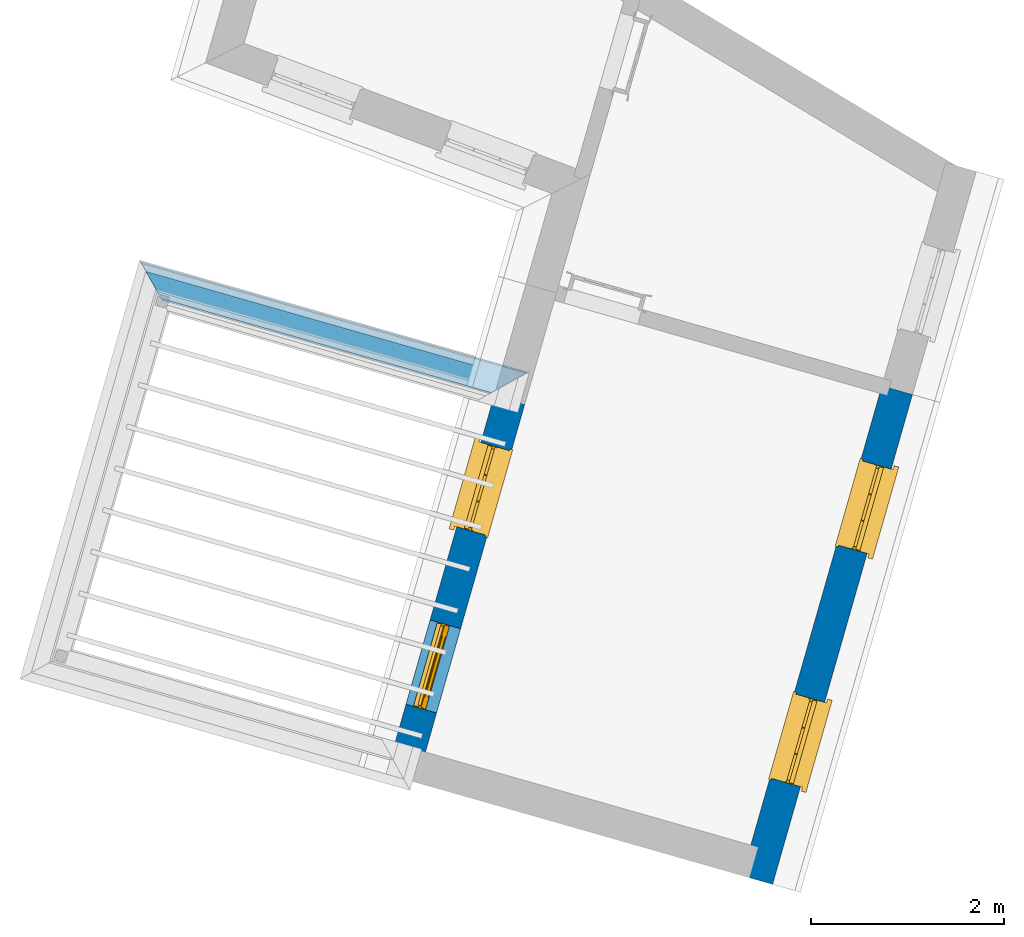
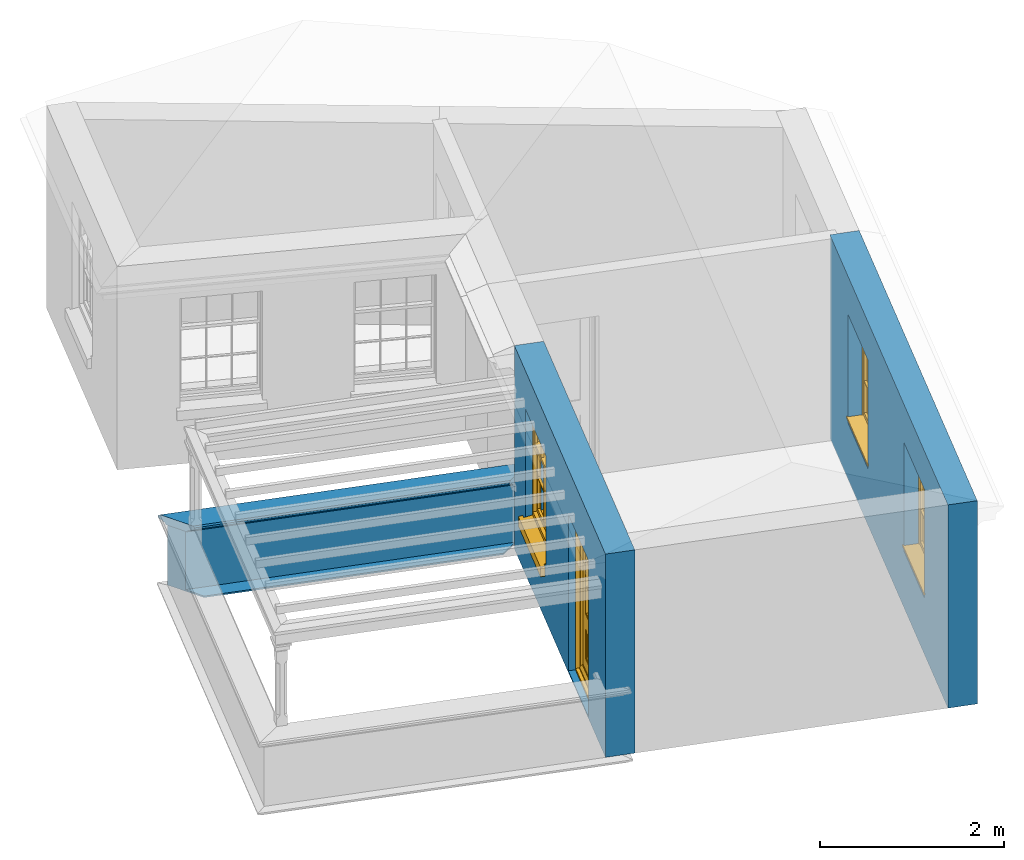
# One storey, part 2 of 5: 4 walls, 3 windows, 1 door, 4 openings.
"""IFC4 building model written with IfcOpenShell, lengths in metres."""

from ifc_helpers import new_model, si_unit, frame, origin, origin_with_axes, place, context, subcontext, project, spatial, polyline, outline, extrude, clip, halfspace, faceted_brep, source, transform, mapped, material, layer, layer_set, layer_usage, material_profile, profile_set, profile_usage, type_object, type_shapes, element, fill, save


model = new_model("IFC4")

# Units and contexts
model_context = context("Model", 3, world=origin_with_axes())
body_context = subcontext(model_context, "Body", "Model", "MODEL_VIEW")
ifc_project = project(units=[si_unit("PLANEANGLEUNIT", "RADIAN"), si_unit("MASSUNIT", "GRAM", prefix="KILO"), si_unit("FORCEUNIT", "NEWTON", prefix="KILO"), si_unit("LENGTHUNIT", "METRE"), si_unit("AREAUNIT", "SQUARE_METRE"), si_unit("VOLUMEUNIT", "CUBIC_METRE")], contexts=[model_context, model_context])

# Sites, building, storey
site_1_placement = place(None, origin_with_axes())
site_1 = spatial("IfcSite", under=ifc_project, at=site_1_placement, Name="Tamar")
site_2_placement = place(site_1_placement, origin_with_axes())
site_2 = spatial("IfcSite", under=site_1, at=site_2_placement, Name="Site plot-19", CompositionType="ELEMENT")
building_placement = place(None, origin_with_axes())
building = spatial("IfcBuilding", under=site_2, at=building_placement, Name="Building plot-19", CompositionType="ELEMENT")
storey_placement = place(None, frame((0.0, 0.0, 30.4), z_axis=(0.0, 0.0, 1.0), x_axis=(1.0, 0.0, 0.0)))
storey = spatial("IfcBuildingStorey", under=building, at=storey_placement, Name="plot-19 1", CompositionType="ELEMENT", Elevation=30.4)

# Wall, openings, door, window
ifc_material = material(Name="Masonry")
ifc_layer = layer(ifc_material, 0.33, ventilated=False)
ifc_layer_set = layer_set([ifc_layer], Name="exterior_0.08_0.25")
ifc_layer_usage = layer_usage(ifc_layer_set, "AXIS2", "POSITIVE", -0.25)
wall_type_1 = type_object("IfcWallType", Name="exterior_0.08_0.25", PredefinedType="SOLIDWALL", material=ifc_layer_set)
wall_1_placement = place(storey_placement, frame((280.056584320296, 298.043987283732, 0.0), z_axis=(0.0, 0.0, 1.0), x_axis=(-0.274568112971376, -0.961567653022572, 0.0)))
wall_1 = element("IfcWall", 1, at=wall_1_placement, inside=storey, type_object=wall_type_1, material=ifc_layer_usage, Name="exterior", context=body_context, shape_type="SweptSolid", body=[
    extrude(outline(polyline([(8.39714556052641e-14, 0.0800000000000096), (-2.31133125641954e-13, -0.249999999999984), (4.08034539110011, -0.249999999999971), (4.08034539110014, 0.0799999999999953), (8.39714556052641e-14, 0.0800000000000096)])), origin_with_axes(), (0.0, 0.0, 1.0), 2.7),
])
opening_1_placement = place(wall_1_placement, frame((0.502586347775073, 0.0, 0.75)))
opening_1 = element("IfcOpeningElement", 2, at=opening_1_placement, cuts=wall_1, Name="My Opening", ObjectType="Opening", context=body_context, shape_type="SweptSolid", body=[
    extrude(outline(polyline([(0.0, -0.270000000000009), (0.909999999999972, -0.270000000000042), (0.909999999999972, 1.10000000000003), (5.55111512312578e-16, 1.10000000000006), (0.0, -0.270000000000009)])), origin_with_axes(), (0.0, 0.0, 1.0), 1.445),
])
opening_2_placement = place(wall_1_placement, frame((2.41775904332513, 0.0, 0.0199999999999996)))
opening_2 = element("IfcOpeningElement", 3, at=opening_2_placement, cuts=wall_1, Name="My Opening", ObjectType="Opening", context=body_context, shape_type="SweptSolid", body=[
    extrude(outline(polyline([(0.0, -0.269999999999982), (0.909999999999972, -0.270000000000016), (0.909999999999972, 1.10000000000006), (8.88178419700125e-16, 1.10000000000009), (0.0, -0.269999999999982)])), origin_with_axes(), (0.0, 0.0, 1.0), 2.08),
])
door_type = type_object("IfcDoorType", Name="door_panelled", OperationType="SINGLE_SWING_LEFT", PredefinedType="NOTDEFINED")
shared_shape_1 = source(origin(), body_context, "Body", "Brep", [
    faceted_brep([(0.545, 0.195, 0.265), (0.745, 0.195, 0.265), (0.745, 0.2, 0.265), (0.545, 0.2, 0.265), (0.745, 0.2, 0.58), (0.545, 0.2, 0.58), (0.545, 0.195, 0.58), (0.515, 0.19, 0.235), (0.775, 0.19, 0.235), (0.745, 0.195, 0.58), (0.515, 0.19, 0.61), (0.515, 0.185, 0.235), (0.775, 0.185, 0.235), (0.775, 0.19, 0.61), (0.515, 0.185, 0.61), (0.785, 0.185, 0.225), (0.505, 0.185, 0.225), (0.775, 0.185, 0.61), (0.505, 0.185, 0.62), (0.785, 0.185, 0.62), (0.505, 0.18, 0.225), (0.785, 0.18, 0.225), (0.505, 0.18, 0.62), (0.785, 0.18, 0.62), (0.883, 0.18, 0.075), (0.898, 0.18, 0.075), (0.405, 0.18, 0.62), (0.405, 0.18, 0.225), (0.027, 0.18, 0.075), (0.785, 0.18, 0.82), (0.125, 0.18, 0.82), (0.405, 0.185, 0.62), (0.405, 0.185, 0.225), (0.898, 0.18, 2.068), (0.027, 0.17, 0.075), (0.883, 0.17, 0.075), (0.125, 0.18, 0.225), (0.012, 0.18, 0.075), (0.785, 0.19, 0.82), (0.125, 0.19, 0.82), (0.125, 0.18, 0.62), (0.125, 0.185, 0.62), (0.395, 0.185, 0.61), (0.395, 0.185, 0.235), (0.125, 0.185, 0.225), (0.785, 0.18, 1.895), (0.027, 0.14, 0.045), (0.883, 0.14, 0.045), (0.558333, 0.19, 0.83), (0.351667, 0.19, 0.83), (0.125, 0.18, 1.895), (0.125, 0.19, 1.895), (0.785, 0.19, 1.895), (0.012, 0.18, 2.068), (0.135, 0.185, 0.61), (0.395, 0.19, 0.61), (0.395, 0.19, 0.235), (0.135, 0.185, 0.235), (0.027, 0.14, 0.027), (0.883, 0.14, 0.027), (0.568333, 0.19, 0.83), (0.558333, 0.22, 0.83), (0.351667, 0.22, 0.83), (0.341667, 0.19, 0.83), (0.135, 0.19, 1.185), (0.135, 0.19, 1.53), (0.775, 0.19, 1.53), (0.775, 0.19, 1.185), (0.135, 0.19, 0.61), (0.365, 0.195, 0.58), (0.365, 0.195, 0.265), (0.135, 0.19, 0.235), (0.568333, 0.19, 1.175), (0.558333, 0.19, 1.175), (0.775, 0.19, 0.83), (0.558333, 0.22, 1.175), (0.785, 0.22, 0.82), (0.125, 0.22, 0.82), (0.351667, 0.22, 1.175), (0.351667, 0.19, 1.175), (0.341667, 0.19, 1.175), (0.135, 0.19, 0.83), (0.135, 0.19, 1.175), (0.135, 0.22, 1.185), (0.135, 0.22, 1.53), (0.135, 0.19, 1.54), (0.351667, 0.19, 1.885), (0.558333, 0.19, 1.885), (0.775, 0.22, 1.53), (0.775, 0.22, 1.185), (0.775, 0.19, 1.175), (0.775, 0.19, 1.54), (0.165, 0.195, 0.58), (0.365, 0.2, 0.58), (0.365, 0.2, 0.265), (0.165, 0.195, 0.265), (0.568333, 0.22, 0.83), (0.568333, 0.22, 1.175), (0.568333, 0.19, 1.185), (0.558333, 0.19, 1.185), (0.775, 0.22, 0.83), (0.785, 0.23, 0.82), (0.125, 0.23, 0.82), (0.341667, 0.22, 0.83), (0.341667, 0.22, 1.175), (0.351667, 0.19, 1.185), (0.341667, 0.19, 1.185), (0.135, 0.22, 0.83), (0.341667, 0.22, 1.185), (0.125, 0.22, 1.895), (0.341667, 0.22, 1.53), (0.341667, 0.19, 1.53), (0.135, 0.19, 1.885), (0.341667, 0.19, 1.54), (0.341667, 0.19, 1.885), (0.558333, 0.22, 1.885), (0.351667, 0.22, 1.885), (0.568333, 0.19, 1.885), (0.785, 0.22, 1.895), (0.568333, 0.22, 1.185), (0.568333, 0.19, 1.53), (0.568333, 0.22, 1.53), (0.568333, 0.19, 1.54), (0.775, 0.19, 1.885), (0.165, 0.2, 0.58), (0.165, 0.2, 0.265), (0.775, 0.22, 1.175), (0.558333, 0.19, 1.53), (0.351667, 0.22, 1.185), (0.558333, 0.22, 1.185), (0.505, 0.23, 0.62), (0.405, 0.23, 0.62), (0.125, 0.23, 1.895), (0.785, 0.23, 1.895), (0.351667, 0.19, 1.53), (0.135, 0.22, 1.175), (0.135, 0.22, 1.54), (0.341667, 0.22, 1.54), (0.135, 0.22, 1.885), (0.351667, 0.19, 1.54), (0.558333, 0.22, 1.54), (0.558333, 0.19, 1.54), (0.351667, 0.22, 1.54), (0.775, 0.22, 1.54), (0.568333, 0.22, 1.54), (0.775, 0.22, 1.885), (0.558333, 0.22, 1.53), (0.405, 0.23, 0.225), (0.505, 0.23, 0.225), (0.125, 0.23, 0.62), (0.785, 0.23, 0.62), (0.012, 0.23, 2.068), (0.898, 0.23, 2.068), (0.351667, 0.22, 1.53), (0.341667, 0.22, 1.885), (0.568333, 0.22, 1.885), (0.405, 0.225, 0.225), (0.405, 0.225, 0.62), (0.505, 0.225, 0.62), (0.505, 0.225, 0.225), (0.898, 0.23, 0.027), (0.012, 0.23, 0.027), (0.125, 0.225, 0.62), (0.785, 0.225, 0.62), (0.395, 0.225, 0.235), (0.395, 0.225, 0.61), (0.125, 0.23, 0.225), (0.125, 0.225, 0.225), (0.515, 0.225, 0.61), (0.515, 0.225, 0.235), (0.785, 0.23, 0.225), (0.785, 0.225, 0.225), (0.135, 0.225, 0.61), (0.775, 0.225, 0.61), (0.135, 0.225, 0.235), (0.395, 0.22, 0.235), (0.395, 0.22, 0.61), (0.515, 0.22, 0.61), (0.515, 0.22, 0.235), (0.775, 0.225, 0.235), (0.135, 0.22, 0.61), (0.775, 0.22, 0.61), (0.135, 0.22, 0.235), (0.365, 0.215, 0.265), (0.365, 0.215, 0.58), (0.545, 0.215, 0.58), (0.545, 0.215, 0.265), (0.775, 0.22, 0.235), (0.165, 0.215, 0.58), (0.745, 0.215, 0.58), (0.165, 0.215, 0.265), (0.365, 0.21, 0.58), (0.365, 0.21, 0.265), (0.545, 0.21, 0.58), (0.545, 0.21, 0.265), (0.745, 0.215, 0.265), (0.165, 0.21, 0.58), (0.745, 0.21, 0.58), (0.165, 0.21, 0.265), (0.745, 0.21, 0.265), (0.885, 0.178, 0.025), (0.025, 0.178, 0.025), (0.025, 0.15, 0.025), (0.885, 0.15, 0.025), (0.9, 0.23, 0.025), (0.01, 0.23, 0.025), (0.9, 0.178, 0.025), (0.91, 0.23, 0.0), (0.0, 0.23, 0.0), (0.01, 0.178, 0.025), (0.9, 0.178, 2.07), (0.9, 0.23, 2.07), (0.885, 0.178, 2.055), (0.91, 0.23, 2.08), (0.01, 0.23, 2.07), (0.0, 0.23, 2.08), (0.01, 0.178, 2.07), (0.025, 0.178, 2.055), (0.0, 0.1, 2.08), (0.91, 0.1, 2.08), (0.01, 0.1, 2.07), (0.9, 0.1, 2.07), (0.01, 0.15, 2.07), (0.9, 0.15, 2.07), (0.0, 0.1, 0.0), (0.91, 0.1, 0.0), (0.01, 0.1, 0.025), (0.9, 0.1, 0.025), (0.01, 0.15, 0.025), (0.025, 0.15, 2.055), (0.9, 0.15, 0.025), (0.885, 0.15, 2.055), (0.898, 0.18, 0.027), (0.012, 0.18, 0.027), (0.883, 0.18, 0.027), (0.027, 0.18, 0.027)], [[[0, 1, 2, 3]], [[2, 4, 5, 3]], [[0, 3, 5, 6]], [[1, 0, 7, 8]], [[9, 4, 2, 1]], [[9, 6, 5, 4]], [[0, 6, 10, 7]], [[8, 7, 11, 12]], [[8, 13, 9, 1]], [[13, 10, 6, 9]], [[7, 10, 14, 11]], [[15, 12, 11, 16]], [[12, 17, 13, 8]], [[17, 14, 10, 13]], [[18, 16, 11, 14]], [[15, 19, 17, 12]], [[15, 16, 20, 21]], [[14, 17, 19, 18]], [[16, 18, 22, 20]], [[21, 23, 19, 15]], [[24, 25, 21, 20]], [[23, 22, 18, 19]], [[20, 22, 26, 27]], [[23, 21, 25]], [[28, 24, 20, 27]], [[22, 23, 29]], [[29, 30, 26, 22]], [[27, 26, 31, 32]], [[23, 25, 33, 29]], [[34, 35, 24, 28]], [[28, 27, 36, 37]], [[38, 39, 30, 29]], [[26, 30, 40]], [[26, 40, 41, 31]], [[42, 43, 32, 31]], [[32, 44, 36, 27]], [[33, 45, 29]], [[46, 47, 35, 34]], [[36, 40, 37]], [[39, 38, 48, 49]], [[50, 30, 39, 51]], [[29, 45, 52, 38]], [[53, 37, 40, 30]], [[44, 41, 40, 36]], [[31, 41, 54, 42]], [[43, 42, 55, 56]], [[57, 44, 32, 43]], [[50, 45, 33, 53]], [[47, 46, 58, 59]], [[60, 48, 38]], [[49, 48, 61, 62]], [[49, 63, 39]], [[50, 53, 30]], [[51, 39, 64, 65]], [[45, 50, 51, 52]], [[66, 67, 38, 52]], [[57, 54, 41, 44]], [[42, 54, 68, 55]], [[56, 55, 69, 70]], [[56, 71, 57, 43]], [[60, 72, 73, 48]], [[60, 38, 74]], [[48, 73, 75, 61]], [[76, 77, 62, 61]], [[62, 78, 79, 49]], [[49, 79, 80, 63]], [[63, 81, 39]], [[82, 64, 39]], [[65, 64, 83, 84]], [[85, 51, 65]], [[52, 51, 86, 87]], [[88, 89, 67, 66]], [[90, 38, 67]], [[91, 66, 52]], [[71, 68, 54, 57]], [[55, 68, 92, 69]], [[69, 93, 94, 70]], [[70, 95, 71, 56]], [[96, 97, 72, 60]], [[73, 72, 98, 99]], [[74, 38, 90]], [[100, 96, 60, 74]], [[75, 73, 79, 78]], [[61, 75, 97, 96]], [[101, 102, 77, 76]], [[77, 103, 62]], [[96, 76, 61]], [[103, 104, 78, 62]], [[80, 79, 105, 106]], [[63, 80, 104, 103]], [[81, 63, 103, 107]], [[81, 82, 39]], [[106, 64, 82, 80]], [[106, 108, 83, 64]], [[84, 83, 77, 109]], [[110, 111, 65, 84]], [[112, 51, 85]], [[113, 85, 65, 111]], [[114, 86, 51]], [[115, 87, 86, 116]], [[117, 52, 87]], [[118, 76, 89, 88]], [[119, 98, 67, 89]], [[120, 121, 88, 66]], [[67, 98, 72, 90]], [[91, 122, 120, 66]], [[91, 52, 123]], [[95, 92, 68, 71]], [[69, 92, 124, 93]], [[94, 93, 124, 125]], [[94, 125, 95, 70]], [[72, 97, 126, 90]], [[127, 99, 98, 120]], [[99, 105, 79, 73]], [[74, 90, 126, 100]], [[96, 100, 76]], [[128, 129, 75, 78]], [[97, 75, 129, 119]], [[130, 131, 102, 101]], [[109, 77, 102, 132]], [[133, 101, 76, 118]], [[77, 107, 103]], [[78, 104, 108, 128]], [[111, 106, 105, 134]], [[104, 80, 82, 135]], [[107, 135, 82, 81]], [[110, 108, 106, 111]], [[104, 135, 83, 108]], [[83, 135, 77]], [[136, 84, 109]], [[110, 84, 136, 137]], [[114, 51, 112]], [[85, 136, 138, 112]], [[113, 137, 136, 85]], [[111, 134, 139, 113]], [[86, 114, 113, 139]], [[140, 141, 87, 115]], [[139, 142, 116, 86]], [[109, 118, 115, 116]], [[117, 123, 52]], [[117, 87, 141, 122]], [[126, 89, 76]], [[143, 118, 88]], [[120, 98, 119, 121]], [[119, 89, 126, 97]], [[144, 143, 88, 121]], [[144, 122, 91, 143]], [[127, 120, 122, 141]], [[143, 91, 123, 145]], [[124, 92, 95, 125]], [[146, 129, 99, 127]], [[99, 129, 128, 105]], [[100, 126, 76]], [[121, 119, 129, 146]], [[147, 131, 130, 148]], [[131, 149, 102]], [[130, 101, 150]], [[102, 151, 132]], [[118, 109, 132, 133]], [[101, 133, 152]], [[107, 77, 135]], [[153, 128, 108, 110]], [[134, 105, 128, 153]], [[109, 138, 136]], [[153, 110, 137, 142]], [[154, 114, 112, 138]], [[137, 113, 114, 154]], [[141, 139, 134, 127]], [[141, 140, 142, 139]], [[144, 140, 115, 155]], [[142, 137, 154, 116]], [[155, 115, 118]], [[116, 154, 109]], [[117, 155, 145, 123]], [[122, 144, 155, 117]], [[143, 145, 118]], [[121, 146, 140, 144]], [[146, 127, 134, 153]], [[156, 157, 131, 147]], [[148, 130, 158, 159]], [[148, 160, 161, 147]], [[157, 162, 149, 131]], [[161, 151, 102, 149]], [[101, 152, 160, 150]], [[163, 158, 130, 150]], [[151, 152, 133, 132]], [[154, 138, 109]], [[142, 140, 146, 153]], [[145, 155, 118]], [[157, 156, 164, 165]], [[147, 166, 167, 156]], [[168, 169, 159, 158]], [[170, 148, 159, 171]], [[148, 170, 160]], [[166, 147, 161]], [[172, 162, 157, 165]], [[166, 149, 162, 167]], [[166, 161, 149]], [[150, 160, 170]], [[163, 173, 168, 158]], [[171, 163, 150, 170]], [[174, 164, 156, 167]], [[175, 176, 165, 164]], [[169, 168, 177, 178]], [[171, 159, 169, 179]], [[167, 162, 172, 174]], [[176, 180, 172, 165]], [[179, 173, 163, 171]], [[181, 177, 168, 173]], [[164, 174, 182, 175]], [[183, 184, 176, 175]], [[178, 177, 185, 186]], [[179, 169, 178, 187]], [[174, 172, 180, 182]], [[184, 188, 180, 176]], [[187, 181, 173, 179]], [[189, 185, 177, 181]], [[175, 182, 190, 183]], [[191, 184, 183, 192]], [[185, 193, 194, 186]], [[187, 178, 186, 195]], [[182, 180, 188, 190]], [[191, 196, 188, 184]], [[195, 189, 181, 187]], [[197, 193, 185, 189]], [[183, 190, 198, 192]], [[198, 196, 191, 192]], [[194, 193, 197, 199]], [[195, 186, 194, 199]], [[188, 196, 198, 190]], [[197, 189, 195, 199]], [[200, 201, 202, 203]], [[201, 200, 204, 205]], [[206, 204, 200]], [[204, 207, 208, 205]], [[209, 201, 205]], [[210, 211, 204, 206]], [[206, 200, 212, 210]], [[211, 213, 207, 204]], [[214, 205, 208, 215]], [[216, 217, 201, 209]], [[205, 214, 216, 209]], [[216, 214, 211, 210]], [[210, 212, 217, 216]], [[214, 215, 213, 211]], [[218, 219, 213, 215]], [[219, 218, 220, 221]], [[221, 220, 222, 223]], [[215, 208, 224, 218]], [[225, 224, 208, 207]], [[224, 226, 220, 218]], [[224, 225, 227, 226]], [[219, 225, 207, 213]], [[228, 222, 220, 226]], [[219, 221, 227, 225]], [[226, 227, 203, 202]], [[202, 229, 222, 228]], [[228, 226, 202]], [[227, 221, 223, 230]], [[230, 203, 227]], [[217, 229, 202, 201]], [[231, 223, 222, 229]], [[230, 223, 231, 203]], [[231, 229, 217, 212]], [[212, 200, 203, 231]], [[33, 152, 151, 53]], [[25, 160, 152, 33]], [[161, 37, 53, 151]], [[232, 160, 25]], [[161, 233, 37]], [[160, 232, 234]], [[24, 234, 232, 25]], [[233, 161, 235]], [[37, 233, 235, 28]], [[161, 160, 234, 235]], [[35, 47, 234, 24]], [[28, 235, 46, 34]], [[58, 235, 234, 59]], [[59, 234, 47]], [[58, 46, 235]]]),
])
type_shapes(door_type, [shared_shape_1])
door_placement = place(storey_placement, frame((279.133121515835, 295.79328178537, 0.0199999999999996), z_axis=(0.0, 0.0, 1.0), x_axis=(-0.249856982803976, -0.875026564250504, 0.0)))
door = element("IfcDoor", 4, at=door_placement, inside=storey, type_object=door_type, Name="bedroom outside door", OverallHeight=2.08, OverallWidth=0.91, context=body_context, shape_type="MappedRepresentation", body=[
    mapped(shared_shape_1, transform((0.0, 0.0, 0.0), scale=1.0)),
])
fill(opening_2, door)
window_type = type_object("IfcWindowType", Name="sash_shorter", PartitioningType="DOUBLE_PANEL_HORIZONTAL", PredefinedType="NOTDEFINED")
shared_shape_2 = source(origin(), body_context, "Body", "Brep", [
    faceted_brep([(0.876875, 0.145, 0.999097), (0.876875, 0.145, 1.411875), (0.9, 0.145, 1.435), (0.033125, 0.145, 1.411875), (0.033125, 0.145, 0.999097), (0.01, 0.145, 1.435), (0.033125, 0.115, 1.411875), (0.01, 0.115, 1.435), (0.033125, 0.115, 0.999097), (0.876875, 0.115, 1.411875), (0.876875, 0.115, 0.999097), (0.9, 0.115, 1.435), (0.033125, 0.145, 0.960972), (0.01, 0.145, 0.960972), (0.033125, 0.145, 0.548195), (0.876875, 0.145, 0.960972), (0.876875, 0.145, 0.548195), (0.9, 0.145, 0.960972), (0.876875, 0.145, 0.538195), (0.876875, 0.145, 0.125417), (0.9, 0.145, 0.077167), (0.033125, 0.145, 0.125417), (0.033125, 0.145, 0.538195), (0.01, 0.145, 0.077167), (0.9, 0.115, 0.960972), (0.01, 0.115, 0.960972), (-0.0425, 0.0, 0.01), (-0.0425, -0.05, 0.001667), (0.0, 0.0, 0.01), (0.9525, 0.0, 0.01), (0.91, 0.0, 0.01), (0.9525, -0.05, 0.001667), (-0.02, 0.33, 0.077167), (0.0, 0.33, 0.077167), (-0.02, 0.36, 0.077167), (0.0, 0.19, 0.077167), (0.01, 0.19, 0.077167), (0.91, 0.19, 0.077167), (0.91, 0.33, 0.077167), (0.9, 0.19, 0.077167), (0.93, 0.33, 0.077167), (0.93, 0.36, 0.077167), (0.01, 0.145, 0.999097), (0.01, 0.175, 0.999097), (0.9, 0.145, 0.999097), (0.9, 0.175, 0.999097), (0.876875, 0.175, 0.125417), (0.876875, 0.175, 0.538195), (0.9, 0.175, 0.077167), (0.876875, 0.175, 0.548195), (0.876875, 0.175, 0.960972), (0.033125, 0.175, 0.125417), (0.01, 0.175, 0.077167), (0.033125, 0.175, 0.538195), (0.033125, 0.175, 0.960972), (0.033125, 0.175, 0.548195), (-0.02, 0.33, 0.052167), (-0.02, 0.36, 0.052167), (0.93, 0.36, 0.052167), (0.93, 0.33, 0.052167), (0.91, 0.33, 0.052167), (0.0, 0.33, 0.052167), (0.91, 0.1, 0.026667), (0.0, 0.1, 0.026667), (-0.0425, -0.05, -0.123333), (0.9525, -0.05, -0.123333), (-0.0425, 0.0, -0.123333), (0.9525, 0.0, -0.123333), (0.01, 0.19, 1.435), (0.9, 0.19, 1.435), (0.0, 0.19, 1.445), (0.91, 0.19, 1.445), (0.01, 0.1, 0.077167), (0.9, 0.1, 0.077167), (0.592292, 0.145, 0.125417), (0.592292, 0.175, 0.125417), (0.317708, 0.175, 0.125417), (0.317708, 0.145, 0.125417), (0.592292, 0.145, 0.548195), (0.317708, 0.145, 0.548195), (0.317708, 0.145, 0.538195), (0.592292, 0.145, 0.538195), (0.592292, 0.175, 0.548195), (0.317708, 0.175, 0.548195), (0.602292, 0.175, 0.548195), (0.602292, 0.145, 0.548195), (0.317708, 0.175, 0.538195), (0.307708, 0.175, 0.125417), (0.307708, 0.175, 0.538195), (0.602292, 0.175, 0.538195), (0.602292, 0.175, 0.125417), (0.592292, 0.175, 0.538195), (0.307708, 0.175, 0.548195), (0.317708, 0.175, 0.960972), (0.307708, 0.175, 0.960972), (0.602292, 0.175, 0.960972), (0.592292, 0.175, 0.960972), (0.307708, 0.145, 0.538195), (0.307708, 0.145, 0.125417), (0.307708, 0.145, 0.548195), (0.307708, 0.145, 0.960972), (0.592292, 0.145, 0.960972), (0.317708, 0.145, 0.960972), (0.602292, 0.145, 0.960972), (0.602292, 0.145, 0.538195), (0.602292, 0.145, 0.125417), (0.317708, 0.115, 1.411875), (0.307708, 0.115, 1.411875), (0.307708, 0.115, 0.999097), (0.317708, 0.115, 0.999097), (0.602292, 0.115, 1.411875), (0.592292, 0.115, 1.411875), (0.592292, 0.115, 0.999097), (0.602292, 0.115, 0.999097), (0.317708, 0.145, 0.999097), (0.307708, 0.145, 0.999097), (0.307708, 0.145, 1.411875), (0.317708, 0.145, 1.411875), (0.602292, 0.145, 0.999097), (0.592292, 0.145, 0.999097), (0.592292, 0.145, 1.411875), (0.602292, 0.145, 1.411875), (0.91, 0.1, 1.445), (0.9, 0.1, 1.435), (0.01, 0.1, 1.435), (0.0, 0.1, 1.445), (0.91, 0.0, 0.0), (0.0, 0.0, 0.0), (0.91, 0.33, 0.0), (0.0, 0.33, 0.0)], [[[0, 1, 2]], [[3, 4, 5]], [[6, 7, 8]], [[9, 10, 11]], [[12, 13, 14]], [[15, 16, 17]], [[18, 19, 20]], [[21, 22, 23]], [[24, 15, 17]], [[13, 12, 25]], [[26, 27, 28]], [[29, 30, 31]], [[32, 33, 34]], [[35, 36, 33]], [[37, 38, 39]], [[40, 41, 38]], [[42, 4, 43]], [[44, 45, 0]], [[46, 47, 48]], [[49, 50, 45]], [[51, 52, 53]], [[54, 55, 43]], [[38, 33, 36, 39]], [[41, 34, 33, 38]], [[56, 32, 34, 57]], [[57, 34, 41, 58]], [[58, 41, 40, 59]], [[57, 58, 60, 61]], [[52, 48, 39, 36]], [[62, 63, 28, 30]], [[27, 31, 30, 28]], [[27, 64, 65, 31]], [[66, 67, 65, 64]], [[2, 5, 68, 69]], [[68, 70, 71, 69]], [[20, 23, 72, 73]], [[73, 72, 63, 62]], [[74, 75, 76, 77]], [[78, 79, 80, 81]], [[78, 82, 83, 79]], [[16, 49, 84, 85]], [[86, 76, 87, 88]], [[89, 90, 75, 91]], [[92, 88, 53, 55]], [[82, 91, 86, 83]], [[93, 83, 92, 94]], [[95, 84, 82, 96]], [[89, 84, 49, 47]], [[97, 88, 87, 98]], [[22, 53, 88, 97]], [[81, 91, 75, 74]], [[80, 86, 91, 81]], [[77, 76, 86, 80]], [[99, 92, 55, 14]], [[100, 94, 92, 99]], [[101, 96, 82, 78]], [[79, 83, 93, 102]], [[85, 84, 95, 103]], [[104, 89, 47, 18]], [[105, 90, 89, 104]], [[104, 18, 16, 85]], [[80, 97, 98, 77]], [[104, 81, 74, 105]], [[103, 101, 78, 85]], [[99, 14, 22, 97]], [[102, 100, 99, 79]], [[106, 107, 108, 109]], [[110, 111, 112, 113]], [[114, 115, 116, 117]], [[118, 119, 120, 121]], [[107, 116, 115, 108]], [[111, 120, 119, 112]], [[109, 114, 117, 106]], [[113, 118, 121, 110]], [[85, 78, 81, 104]], [[84, 89, 91, 82]], [[83, 86, 88, 92]], [[79, 99, 97, 80]], [[109, 112, 119, 114]], [[102, 93, 96, 101]], [[106, 117, 120, 111]], [[98, 87, 51, 21]], [[6, 3, 116, 107]], [[110, 121, 1, 9]], [[19, 46, 90, 105]], [[26, 66, 64, 27]], [[29, 31, 65, 67]], [[25, 24, 112, 109]], [[11, 7, 106, 111]], [[75, 48, 52, 76]], [[43, 45, 96, 93]], [[45, 43, 114, 119]], [[5, 2, 120, 117]], [[24, 25, 102, 101]], [[42, 5, 4]], [[2, 44, 0]], [[49, 45, 48, 47]], [[52, 43, 55, 53]], [[14, 13, 23, 22]], [[20, 17, 16, 18]], [[24, 11, 10]], [[25, 8, 7]], [[8, 4, 3, 6]], [[9, 1, 0, 10]], [[15, 50, 49, 16]], [[18, 47, 46, 19]], [[21, 51, 53, 22]], [[14, 55, 54, 12]], [[44, 2, 69, 45]], [[68, 5, 42, 43]], [[36, 35, 70, 68]], [[39, 69, 71, 37]], [[62, 122, 123, 73]], [[63, 72, 124, 125]], [[8, 108, 115, 4]], [[113, 10, 0, 118]], [[94, 100, 12, 54]], [[17, 20, 73, 24]], [[72, 23, 13, 25]], [[52, 36, 68, 43]], [[69, 39, 48, 45]], [[11, 24, 73, 123]], [[7, 124, 72, 25]], [[23, 77, 98]], [[98, 21, 23]], [[105, 74, 20]], [[20, 19, 105]], [[20, 74, 77, 23]], [[113, 112, 24]], [[24, 10, 113]], [[25, 109, 108]], [[108, 8, 25]], [[110, 9, 11]], [[11, 111, 110]], [[7, 6, 107]], [[107, 106, 7]], [[5, 117, 116]], [[116, 3, 5]], [[121, 120, 2]], [[2, 1, 121]], [[11, 123, 124, 7]], [[122, 125, 124, 123]], [[43, 93, 94]], [[94, 54, 43]], [[96, 45, 95]], [[50, 95, 45]], [[15, 103, 95, 50]], [[48, 75, 90]], [[90, 46, 48]], [[87, 76, 52]], [[52, 51, 87]], [[103, 15, 24]], [[24, 101, 103]], [[100, 102, 25]], [[25, 12, 100]], [[115, 114, 43]], [[43, 4, 115]], [[118, 0, 45]], [[45, 119, 118]], [[71, 70, 125, 122]], [[70, 35, 63, 125]], [[122, 62, 37, 71]], [[126, 67, 66, 127]], [[60, 58, 59]], [[38, 60, 59, 40]], [[61, 56, 57]], [[32, 56, 61, 33]], [[61, 60, 128, 129]], [[62, 60, 38, 37]], [[126, 128, 60, 62]], [[33, 61, 63, 35]], [[61, 129, 127, 63]], [[128, 126, 127, 129]], [[28, 127, 66, 26]], [[63, 127, 28]], [[29, 67, 126, 30]], [[30, 126, 62]]]),
])
type_shapes(window_type, [shared_shape_2])
window_1_placement = place(storey_placement, frame((279.658966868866, 297.634849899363, 0.75), z_axis=(0.0, 0.0, 1.0), x_axis=(-0.249856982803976, -0.875026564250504, 0.0)))
window_1 = element("IfcWindow", 5, at=window_1_placement, inside=storey, type_object=window_type, Name="bedroom outside window", OverallHeight=1.445, OverallWidth=0.91, context=body_context, shape_type="MappedRepresentation", body=[
    mapped(shared_shape_2, transform((0.0, 0.0, 0.0), scale=1.0)),
])
fill(opening_1, window_1)

# Wall, openings, windows
wall_2_placement = place(storey_placement, frame((282.535048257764, 293.352843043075, 0.0), z_axis=(0.0, 0.0, 1.0), x_axis=(0.274568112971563, 0.961567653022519, 0.0)))
wall_2 = element("IfcWall", 6, at=wall_2_placement, inside=storey, type_object=wall_type_1, material=ifc_layer_usage, Name="exterior", context=body_context, shape_type="SweptSolid", body=[
    extrude(outline(polyline([(-0.249999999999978, 0.0799999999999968), (-0.249999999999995, -0.249999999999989), (5.03488060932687, -0.249999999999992), (5.03488060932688, 0.0799999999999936), (-0.249999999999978, 0.0799999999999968)])), origin_with_axes(), (0.0, 0.0, 1.0), 2.7),
])
opening_3_placement = place(wall_2_placement, frame((0.803720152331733, 0.0, 0.75)))
opening_3 = element("IfcOpeningElement", 7, at=opening_3_placement, cuts=wall_2, Name="My Opening", ObjectType="Opening", context=body_context, shape_type="SweptSolid", body=[
    extrude(outline(polyline([(0.0, -0.269999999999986), (0.910000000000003, -0.269999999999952), (0.910000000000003, 1.10000000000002), (1.11022302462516e-16, 1.09999999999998), (0.0, -0.269999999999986)])), origin_with_axes(), (0.0, 0.0, 1.0), 1.445),
])
opening_4_placement = place(wall_2_placement, frame((3.32116045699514, 0.0, 0.75)))
opening_4 = element("IfcOpeningElement", 8, at=opening_4_placement, cuts=wall_2, Name="My Opening", ObjectType="Opening", context=body_context, shape_type="SweptSolid", body=[
    extrude(outline(polyline([(0.0, -0.269999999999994), (0.910000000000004, -0.26999999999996), (0.910000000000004, 1.10000000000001), (4.44089209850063e-16, 1.09999999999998), (0.0, -0.269999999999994)])), origin_with_axes(), (0.0, 0.0, 1.0), 1.445),
])
window_2_placement = place(storey_placement, frame((283.015347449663, 294.051540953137, 0.75), z_axis=(0.0, 0.0, 1.0), x_axis=(0.24985698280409, 0.875026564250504, 0.0)))
window_2 = element("IfcWindow", 9, at=window_2_placement, inside=storey, type_object=window_type, Name="bedroom outside window", OverallHeight=1.445, OverallWidth=0.91, context=body_context, shape_type="MappedRepresentation", body=[
    mapped(shared_shape_2, transform((0.0, 0.0, 0.0), scale=1.0)),
])
fill(opening_3, window_2)
window_3_placement = place(storey_placement, frame((283.706556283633, 296.472230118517, 0.75), z_axis=(0.0, 0.0, 1.0), x_axis=(0.24985698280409, 0.875026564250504, 0.0)))
window_3 = element("IfcWindow", 10, at=window_3_placement, inside=storey, type_object=window_type, Name="bedroom outside window", OverallHeight=1.445, OverallWidth=0.91, context=body_context, shape_type="MappedRepresentation", body=[
    mapped(shared_shape_2, transform((0.0, 0.0, 0.0), scale=1.0)),
])
fill(opening_4, window_3)

# Walls
ifc_material_profile_1 = material_profile(None, outline(polyline([(0.25, 0.0), (0.25, 0.795), (0.09, 0.795), (0.09, 0.02), (-0.08, 0.02), (-0.08, 0.0), (0.25, 0.0)])))
ifc_profile_set_1 = profile_set([ifc_material_profile_1])
ifc_profile_usage_1 = profile_usage(ifc_profile_set_1)
wall_type_2 = type_object("IfcWallType", Name="parapet_0", PredefinedType="PARAPET", material=ifc_profile_set_1)
wall_3_placement = place(storey_placement, frame((275.413413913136, 299.369808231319, 0.0), z_axis=(0.961567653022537, -0.274568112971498, 0.0), x_axis=(0.274568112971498, 0.961567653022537, 0.0)))
element("IfcWall", 11, at=wall_3_placement, inside=storey, type_object=wall_type_2, material=ifc_profile_usage_1, Name="parapet_0", context=body_context, shape_type="Clipping", body=[
    clip(clip(extrude(outline(polyline([(0.25, 0.0), (0.25, 0.795), (0.09, 0.795), (0.09, 0.02), (-0.08, 0.02), (-0.08, 0.0), (0.25, 0.0)])), origin_with_axes(), (0.0, 0.0, 1.0), 5.51875062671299), halfspace(frame((0.0, 0.0, 4.51875062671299), z_axis=(0.707106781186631, 0.0, -0.707106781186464), x_axis=(0.0, 1.0, 0.0)), True)), halfspace(frame((0.0, 0.0, 1.0), z_axis=(-0.707106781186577, 0.0, -0.707106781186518), x_axis=(0.0, 1.0, 0.0)), False)),
])
ifc_material_profile_2 = material_profile(None, outline(polyline([(0.265, 0.795), (0.268, 0.807), (0.274, 0.816), (0.283, 0.822), (0.295, 0.825), (0.295, 0.84), (0.305, 0.84), (0.317, 0.842), (0.326, 0.849), (0.333, 0.858), (0.335, 0.87), (0.333, 0.882), (0.326, 0.891), (0.317, 0.898), (0.305, 0.9), (0.035, 0.9), (0.023, 0.898), (0.014, 0.891), (0.007, 0.882), (0.005, 0.87), (0.007, 0.858), (0.014, 0.849), (0.023, 0.842), (0.035, 0.84), (0.045, 0.84), (0.045, 0.825), (0.057, 0.822), (0.066, 0.816), (0.072, 0.807), (0.075, 0.795), (0.265, 0.795)])))
ifc_profile_set_2 = profile_set([ifc_material_profile_2])
ifc_profile_usage_2 = profile_usage(ifc_profile_set_2)
wall_type_3 = type_object("IfcWallType", Name="parapet_1", PredefinedType="PARAPET", material=ifc_profile_set_2)
wall_4_placement = place(storey_placement, frame((275.413413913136, 299.369808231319, 0.0), z_axis=(0.961567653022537, -0.274568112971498, 0.0), x_axis=(0.274568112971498, 0.961567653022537, 0.0)))
element("IfcWall", 12, at=wall_4_placement, inside=storey, type_object=wall_type_3, material=ifc_profile_usage_2, Name="parapet_1", context=body_context, shape_type="Clipping", body=[
    clip(clip(extrude(outline(polyline([(0.265, 0.795), (0.268, 0.807), (0.274, 0.816), (0.283, 0.822), (0.295, 0.825), (0.295, 0.84), (0.305, 0.84), (0.317, 0.842), (0.326, 0.849), (0.333, 0.858), (0.335, 0.87), (0.333, 0.882), (0.326, 0.891), (0.317, 0.898), (0.305, 0.9), (0.035, 0.9), (0.023, 0.898), (0.014, 0.891), (0.007, 0.882), (0.005, 0.87), (0.007, 0.858), (0.014, 0.849), (0.023, 0.842), (0.035, 0.84), (0.045, 0.84), (0.045, 0.825), (0.057, 0.822), (0.066, 0.816), (0.072, 0.807), (0.075, 0.795), (0.265, 0.795)])), origin_with_axes(), (0.0, 0.0, 1.0), 5.51875062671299), halfspace(frame((0.0, 0.0, 4.51875062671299), z_axis=(0.707106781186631, 0.0, -0.707106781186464), x_axis=(0.0, 1.0, 0.0)), True)), halfspace(frame((0.0, 0.0, 1.0), z_axis=(-0.707106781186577, 0.0, -0.707106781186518), x_axis=(0.0, 1.0, 0.0)), False)),
])

save(model, "model.ifc")
